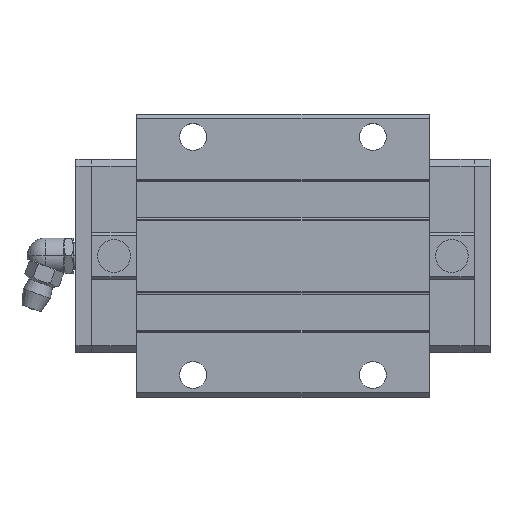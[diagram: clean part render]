
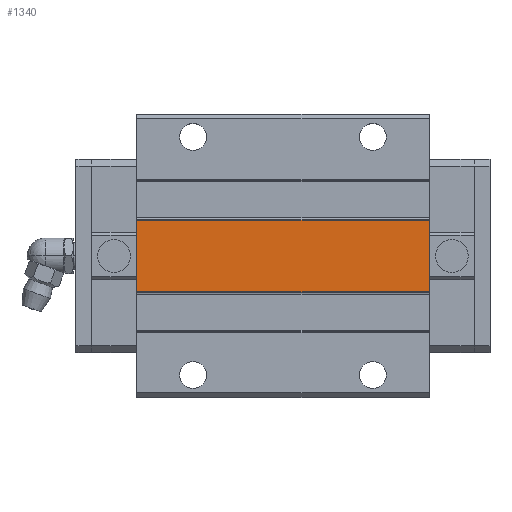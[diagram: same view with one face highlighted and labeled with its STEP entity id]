
A CAD part, top view. The second image highlights one B-rep face of the part: STEP entity #1340.
In plain terms, the highlighted planar face has unit normal (0, 0, 1).
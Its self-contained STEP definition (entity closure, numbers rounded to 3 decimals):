
#1279=CARTESIAN_POINT('POINT90',(78.7,-8.,
   25.4));
#1280=VERTEX_POINT('VERTEX90',#1279);
#1287=CARTESIAN_POINT('POINT91',(13.5,-8.,
   25.4));
#1288=VERTEX_POINT('VERTEX91',#1287);
#1289=CARTESIAN_POINT('POS128',(13.5,-8.,
   25.4));
#1290=DIRECTION('DIR186',(1.,0.,0.));
#1291=VECTOR('VEC70',#1290,1.);
#1292=LINE('STRAIGHT70',#1289,#1291);
#1293=EDGE_CURVE('EDGE122',#1288,#1280,#1292,.T.);
#1310=CARTESIAN_POINT('POINT92',(78.7,8.,25.4));
#1311=VERTEX_POINT('VERTEX92',#1310);
#1312=CARTESIAN_POINT('POS131',(78.7,-8.,
   25.4));
#1313=DIRECTION('DIR190',(0.,1.,0.));
#1314=VECTOR('VEC72',#1313,1.);
#1315=LINE('STRAIGHT72',#1312,#1314);
#1316=EDGE_CURVE('EDGE124',#1280,#1311,#1315,.T.);
#1317=ORIENTED_EDGE('COEDGE187',*,*,#1316,.T.);
#1318=CARTESIAN_POINT('POINT93',(13.5,8.,25.4));
#1319=VERTEX_POINT('VERTEX93',#1318);
#1320=CARTESIAN_POINT('POS132',(13.5,8.,25.4));
#1321=DIRECTION('DIR191',(1.,0.,0.));
#1322=VECTOR('VEC73',#1321,1.);
#1323=LINE('STRAIGHT73',#1320,#1322);
#1324=EDGE_CURVE('EDGE125',#1319,#1311,#1323,.T.);
#1325=ORIENTED_EDGE('COEDGE188',*,*,#1324,.F.);
#1326=CARTESIAN_POINT('POS133',(13.5,-8.,
   25.4));
#1327=DIRECTION('DIR192',(0.,1.,0.));
#1328=VECTOR('VEC74',#1327,1.);
#1329=LINE('STRAIGHT74',#1326,#1328);
#1330=EDGE_CURVE('EDGE126',#1288,#1319,#1329,.T.);
#1331=ORIENTED_EDGE('COEDGE189',*,*,#1330,.F.);
#1332=ORIENTED_EDGE('COEDGE190',*,*,#1293,.T.);
#1333=EDGE_LOOP('NONE',(#1317,#1325,#1331,#1332));
#1334=FACE_BOUND('LOOP1',#1333,.T.);
#1335=CARTESIAN_POINT('POS134',(13.5,-8.,
   25.4));
#1336=DIRECTION('DIR193',(0.,0.,1.));
#1337=DIRECTION('DIR194',(1.,0.,0.));
#1338=AXIS2_PLACEMENT_3D('AXIS60',#1335,#1336,#1337);
#1339=PLANE('PLANE16',#1338);
#1340=ADVANCED_FACE('FACE37',(#1334),#1339,.T.);
